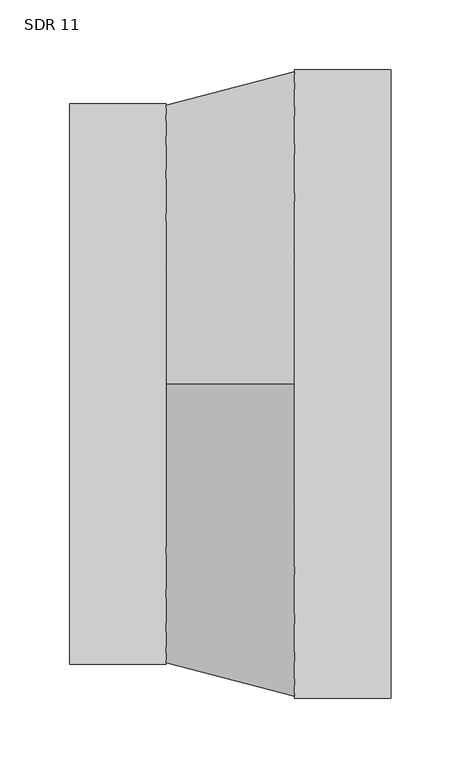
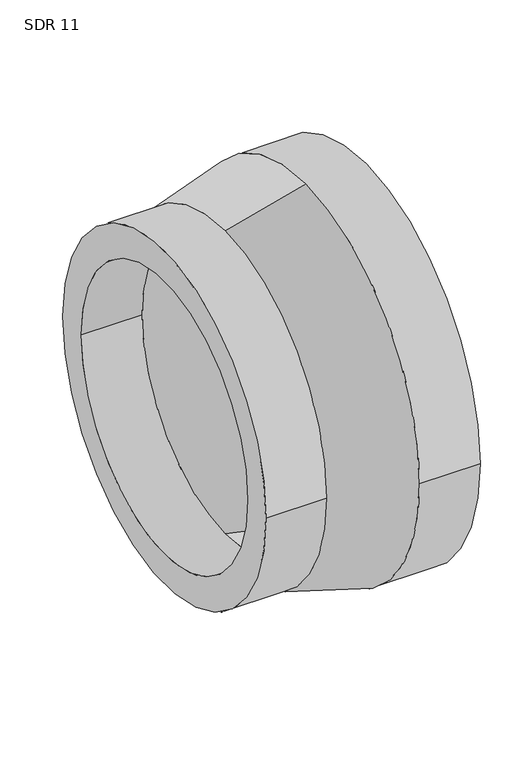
"""IFC4 building model written with IfcOpenShell, lengths in millimetres: pipe fitting geometry, Aquatherm - Reducing Coupling Combined - METRIC : SDR 11."""

from ifc_helpers import new_model, si_unit, frame, origin, place, context, project, spatial, polyline, circle_curve, source, transform, mapped, element, save
from ifc_brep_helpers import plane_surface, cylinder_surface, revolved_surface, advanced_brep


def sdr_11_b4dd705e(model_context):
    return source(origin(), model_context, "Body", "AdvancedBrep", [
        advanced_brep(
        [(-115.062, -200.66, 0.0), (-115.062, 200.66, 0.0), (-115.062, -164.1763636, 0.0), (-115.062, 164.1763636, 0.0), (-46.0248, 164.1763636, 0.0), (-46.0248, 0.0, 164.1763636), (-46.0248, -164.1763636, 0.0), (-46.0248, 0.0, -164.1763636), (-46.0248, 200.66, 0.0), (-46.0248, 0.0, -200.66), (-46.0248, -200.66, 0.0), (-46.0248, 0.0, 200.66), (115.062, -224.79, 0.0), (115.062, 224.79, 0.0), (115.062, -183.9190909, 0.0), (115.062, 183.9190909, 0.0), (46.0248, -224.79, 0.0), (46.0248, 0.0, -224.79), (46.0248, 224.79, 0.0), (46.0248, 0.0, 224.79), (46.0248, -183.9190909, 0.0), (46.0248, 0.0, 183.9190909), (46.0248, 183.9190909, 0.0), (46.0248, 0.0, -183.9190909)],
        [
            (0, 1, circle_curve(frame((-115.062, 0.0, 0.0), z_axis=(-1.0, 0.0, 0.0), x_axis=(0.0, 1.0, 0.0)), 200.66)),
            (1, 0, circle_curve(frame((-115.062, 0.0, 0.0), z_axis=(-1.0, 0.0, 0.0), x_axis=(0.0, 1.0, 0.0)), 200.66)),
            (2, 3, circle_curve(frame((-115.062, 0.0, 0.0), z_axis=(1.0, 0.0, 0.0), x_axis=(0.0, 1.0, 0.0)), 164.1763636)),
            (3, 2, circle_curve(frame((-115.062, 0.0, 0.0), z_axis=(1.0, 0.0, 0.0), x_axis=(0.0, 1.0, 0.0)), 164.1763636)),
            (3, 4),
            (4, 5, circle_curve(frame((-46.0248, 0.0, 0.0), z_axis=(1.0, 0.0, 0.0), x_axis=(0.0, 1.0, 0.0)), 164.1763636)),
            (5, 6, circle_curve(frame((-46.0248, 0.0, 0.0), z_axis=(1.0, 0.0, 0.0), x_axis=(0.0, 1.0, 0.0)), 164.1763636)),
            (6, 2),
            (6, 7, circle_curve(frame((-46.0248, 0.0, 0.0), z_axis=(1.0, 0.0, 0.0), x_axis=(0.0, 1.0, 0.0)), 164.1763636)),
            (7, 4, circle_curve(frame((-46.0248, 0.0, 0.0), z_axis=(1.0, 0.0, 0.0), x_axis=(0.0, 1.0, 0.0)), 164.1763636)),
            (1, 8),
            (8, 9, circle_curve(frame((-46.0248, 0.0, 0.0), z_axis=(-1.0, 0.0, 0.0), x_axis=(0.0, 1.0, 0.0)), 200.66)),
            (9, 10, circle_curve(frame((-46.0248, 0.0, 0.0), z_axis=(-1.0, 0.0, 0.0), x_axis=(0.0, 1.0, 0.0)), 200.66)),
            (10, 0),
            (10, 11, circle_curve(frame((-46.0248, 0.0, 0.0), z_axis=(-1.0, 0.0, 0.0), x_axis=(0.0, 1.0, 0.0)), 200.66)),
            (11, 8, circle_curve(frame((-46.0248, 0.0, 0.0), z_axis=(-1.0, 0.0, 0.0), x_axis=(0.0, 1.0, 0.0)), 200.66)),
            (12, 13, circle_curve(frame((115.062, 0.0, 0.0), z_axis=(1.0, 0.0, 0.0), x_axis=(0.0, 1.0, 0.0)), 224.79)),
            (13, 12, circle_curve(frame((115.062, 0.0, 0.0), z_axis=(1.0, 0.0, 0.0), x_axis=(0.0, 1.0, 0.0)), 224.79)),
            (14, 15, circle_curve(frame((115.062, 0.0, 0.0), z_axis=(-1.0, 0.0, 0.0), x_axis=(0.0, 1.0, 0.0)), 183.9190909)),
            (15, 14, circle_curve(frame((115.062, 0.0, 0.0), z_axis=(-1.0, 0.0, 0.0), x_axis=(0.0, 1.0, 0.0)), 183.9190909)),
            (12, 16),
            (16, 17, circle_curve(frame((46.0248, 0.0, 0.0), z_axis=(1.0, 0.0, 0.0), x_axis=(0.0, 1.0, 0.0)), 224.79)),
            (17, 18, circle_curve(frame((46.0248, 0.0, 0.0), z_axis=(1.0, 0.0, 0.0), x_axis=(0.0, 1.0, 0.0)), 224.79)),
            (18, 13),
            (18, 19, circle_curve(frame((46.0248, 0.0, 0.0), z_axis=(1.0, 0.0, 0.0), x_axis=(0.0, 1.0, 0.0)), 224.79)),
            (19, 16, circle_curve(frame((46.0248, 0.0, 0.0), z_axis=(1.0, 0.0, 0.0), x_axis=(0.0, 1.0, 0.0)), 224.79)),
            (14, 20),
            (20, 21, circle_curve(frame((46.0248, 0.0, 0.0), z_axis=(-1.0, 0.0, 0.0), x_axis=(0.0, 1.0, 0.0)), 183.9190909)),
            (21, 22, circle_curve(frame((46.0248, 0.0, 0.0), z_axis=(-1.0, 0.0, 0.0), x_axis=(0.0, 1.0, 0.0)), 183.9190909)),
            (22, 15),
            (22, 23, circle_curve(frame((46.0248, 0.0, 0.0), z_axis=(-1.0, 0.0, 0.0), x_axis=(0.0, 1.0, 0.0)), 183.9190909)),
            (23, 20, circle_curve(frame((46.0248, 0.0, 0.0), z_axis=(-1.0, 0.0, 0.0), x_axis=(0.0, 1.0, 0.0)), 183.9190909)),
            (11, 19),
            (17, 9),
            (21, 5),
            (7, 23),
        ],
        [
            plane_surface(frame((-115.062, 164.1763636, 0.0), z_axis=(-1.0, 0.0, 0.0), x_axis=(0.0, 0.0, 1.0))),
            revolved_surface(polyline([(-115.062, 164.1763636, 0.0), (-46.0248, 164.1763636, 0.0)]), (-115.062, 0.0, 0.0), (-1.0, 0.0, 0.0)),
            cylinder_surface(frame((0.0, 0.0, 0.0), z_axis=(1.0, 0.0, 0.0), x_axis=(0.0, 1.0, 0.0)), 200.66),
            plane_surface(frame((115.062, 224.79, 0.0), z_axis=(1.0, 0.0, 0.0), x_axis=(0.0, 0.0, 1.0))),
            cylinder_surface(frame((46.0248, 0.0, 0.0), z_axis=(1.0, 0.0, 0.0), x_axis=(0.0, 1.0, 0.0)), 224.79),
            revolved_surface(polyline([(46.0248, 183.9190909, 0.0), (115.062, 183.9190909, 0.0)]), (0.0, 0.0, 0.0), (-1.0, 0.0, 0.0)),
            revolved_surface(polyline([(46.0248, 0.0, 224.79), (-46.0248, 0.0, 200.66)]), (-690.3215384, 0.0, 0.0), (-1.0, 0.0, 0.0)),
            revolved_surface(polyline([(-46.0248, 0.0, 164.1763636), (46.0248, 0.0, 183.9190909)]), (-690.3215384, 0.0, 0.0), (-1.0, 0.0, 0.0)),
        ],
        [
            (0, [[1, 2], [3, 4]]),
            (1, [[-4, 5, 6, 7, 8]]),
            (1, [[-3, -8, 9, 10, -5]]),
            (2, [[-2, 11, 12, 13, 14]]),
            (2, [[-1, -14, 15, 16, -11]]),
            (3, [[17, 18], [19, 20]]),
            (4, [[-17, 21, 22, 23, 24]]),
            (4, [[-18, -24, 25, 26, -21]]),
            (5, [[-19, 27, 28, 29, 30]]),
            (5, [[-20, -30, 31, 32, -27]]),
            (6, [[33, -25, -23, 34, -12, -16]]),
            (6, [[-33, -15, -13, -34, -22, -26]]),
            (7, [[35, -6, -10, 36, -31, -29]]),
            (7, [[-35, -28, -32, -36, -9, -7]]),
        ],
    ),
    ])


if __name__ == "__main__":
    model = new_model("IFC4")
    model_context = context("Model", 3, world=origin())
    ifc_project = project(units=[si_unit("LENGTHUNIT", "METRE", prefix="MILLI")], contexts=[model_context])
    site = spatial("IfcSite", under=ifc_project)
    building = spatial("IfcBuilding", under=site)
    placement = place(None, origin())
    sdr_11_shape = sdr_11_b4dd705e(model_context)
    element("IfcPipeFitting", 1, ObjectType="Aquatherm - Reducing Coupling Combined - METRIC : SDR 11", at=placement, inside=building, context=model_context, shape_type="MappedRepresentation", body=[
        mapped(sdr_11_shape, transform((0.0, 0.0, 0.0), x_axis=(1.0, 0.0, 0.0), y_axis=(0.0, 1.0, 0.0), z_axis=(0.0, 0.0, 1.0))),
    ])
    save(model, "model.ifc")
